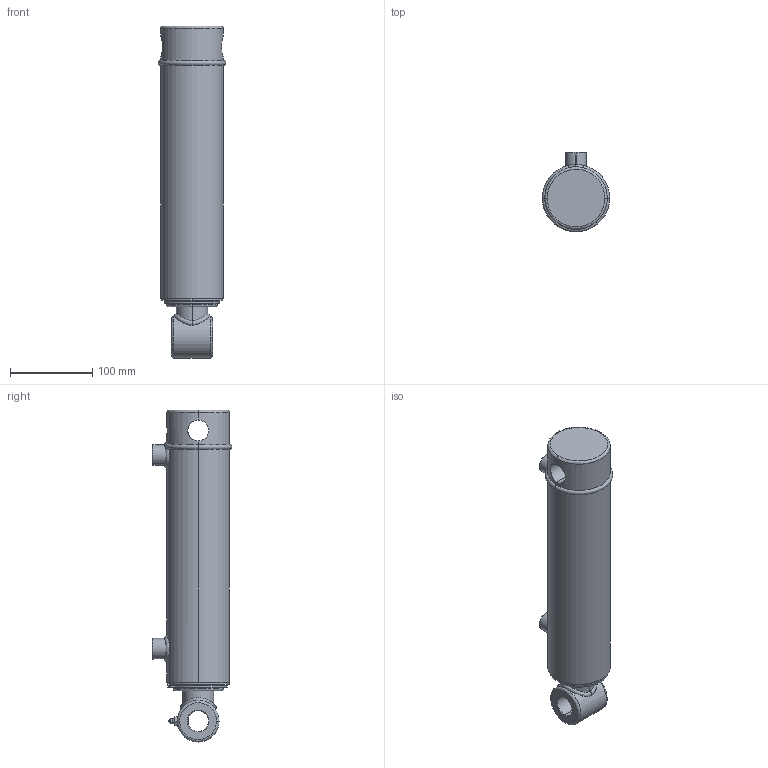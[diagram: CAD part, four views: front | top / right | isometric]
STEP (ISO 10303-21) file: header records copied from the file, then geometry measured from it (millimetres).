
FILE_DESCRIPTION (( 'STEP AP203' ), '1' );
FILE_NAME ('SB-C250150x203 (8).STEP', '2014-11-18T22:03:50', ( '' ), ( '' ), 'SwSTEP 2.0', 'SolidWorks 2014', '' );
FILE_SCHEMA (( 'CONFIG_CONTROL_DESIGN' ));
Length unit declared in the file: millimetre
Products named in the file (7): SPARE 8; SB-C250150x203 (8); SB-C250250X203 (8) BODY; 2.5 INCH CIRCLIP; SB-C250150x203 (8) BODY; 8 SPARE; 18 NPT GREASE NIPPLE
Assembly tree (6 placements, depth 3):
  SB-C250150x203 (8)
    SB-C250150x203 (8) BODY
      SB-C250250X203 (8) BODY
      2.5 INCH CIRCLIP
    SPARE 8
      8 SPARE
      18 NPT GREASE NIPPLE
Bounding box: 82.2 x 97.2 x 404.4 mm (x, y, z)
Volume: 1644774 mm3; surface area: 185239.4 mm2
Topology: 4 solids, 4 shells, 135 faces, 315 edges, 197 vertices
Faces by surface type: cylinder 51, plane 29, cone 22, bspline 19, torus 12, sphere 2
Entity records: 10875 total; most frequent: CARTESIAN_POINT 7141, DIRECTION 640, ORIENTED_EDGE 622, EDGE_CURVE 311, AXIS2_PLACEMENT_3D 271, VERTEX_POINT 197, EDGE_LOOP 160, CIRCLE 144
